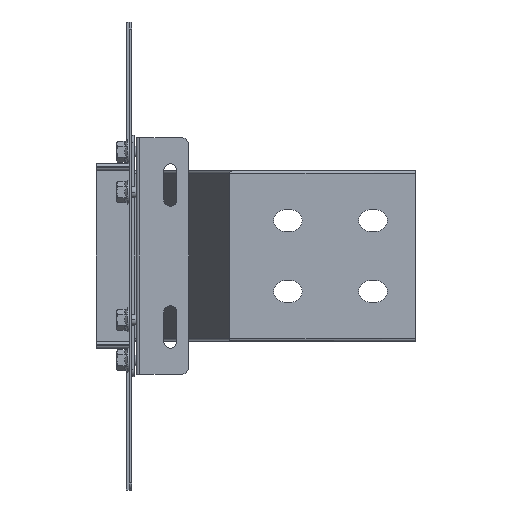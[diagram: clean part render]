
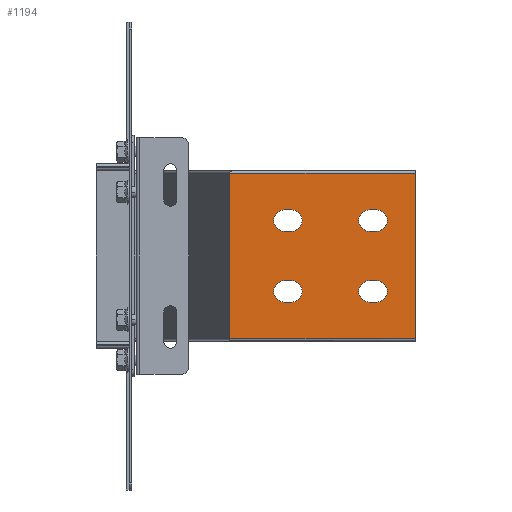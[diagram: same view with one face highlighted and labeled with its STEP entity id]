
A CAD part, front view. The second image highlights one B-rep face of the part: STEP entity #1194.
In plain terms, the highlighted planar face has unit normal (0, -1, 0).
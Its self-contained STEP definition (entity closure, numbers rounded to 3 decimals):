
#1018=AXIS2_PLACEMENT_3D('Circle Axis2P3D',#1016,#1017,$) ;
#1038=AXIS2_PLACEMENT_3D('Plane Axis2P3D',#1035,#1036,#1037) ;
#1076=AXIS2_PLACEMENT_3D('Circle Axis2P3D',#1074,#1075,$) ;
#1094=AXIS2_PLACEMENT_3D('Circle Axis2P3D',#1092,#1093,$) ;
#1110=AXIS2_PLACEMENT_3D('Circle Axis2P3D',#1108,#1109,$) ;
#1128=AXIS2_PLACEMENT_3D('Circle Axis2P3D',#1126,#1127,$) ;
#1144=AXIS2_PLACEMENT_3D('Circle Axis2P3D',#1142,#1143,$) ;
#1171=AXIS2_PLACEMENT_3D('Circle Axis2P3D',#1169,#1170,$) ;
#1185=AXIS2_PLACEMENT_3D('Circle Axis2P3D',#1183,#1184,$) ;
#982=CARTESIAN_POINT('Vertex',(112.5,-151.65,32.5)) ;
#985=CARTESIAN_POINT('Line Origine',(110.,-151.65,32.5)) ;
#989=CARTESIAN_POINT('Vertex',(107.5,-151.65,32.5)) ;
#1016=CARTESIAN_POINT('Axis2P3D Location',(107.5,-151.65,25.)) ;
#1020=CARTESIAN_POINT('Vertex',(107.5,-151.65,17.5)) ;
#1035=CARTESIAN_POINT('Axis2P3D Location',(200.,-151.65,-58.35)) ;
#1040=CARTESIAN_POINT('Line Origine',(134.45,-151.65,-58.35)) ;
#1044=CARTESIAN_POINT('Vertex',(200.,-151.65,-58.35)) ;
#1046=CARTESIAN_POINT('Vertex',(68.9,-151.65,-58.35)) ;
#1049=CARTESIAN_POINT('Line Origine',(200.,-151.65,0.)) ;
#1053=CARTESIAN_POINT('Vertex',(200.,-151.65,58.35)) ;
#1056=CARTESIAN_POINT('Line Origine',(134.45,-151.65,58.35)) ;
#1060=CARTESIAN_POINT('Vertex',(68.9,-151.65,58.35)) ;
#1063=CARTESIAN_POINT('Line Origine',(68.9,-151.65,0.)) ;
#1074=CARTESIAN_POINT('Axis2P3D Location',(112.5,-151.65,25.)) ;
#1078=CARTESIAN_POINT('Vertex',(112.5,-151.65,17.5)) ;
#1081=CARTESIAN_POINT('Line Origine',(110.,-151.65,17.5)) ;
#1092=CARTESIAN_POINT('Axis2P3D Location',(172.5,-151.65,25.)) ;
#1096=CARTESIAN_POINT('Vertex',(172.5,-151.65,17.5)) ;
#1098=CARTESIAN_POINT('Vertex',(172.5,-151.65,32.5)) ;
#1101=CARTESIAN_POINT('Line Origine',(170.,-151.65,17.5)) ;
#1105=CARTESIAN_POINT('Vertex',(167.5,-151.65,17.5)) ;
#1108=CARTESIAN_POINT('Axis2P3D Location',(167.5,-151.65,25.)) ;
#1112=CARTESIAN_POINT('Vertex',(167.5,-151.65,32.5)) ;
#1115=CARTESIAN_POINT('Line Origine',(170.,-151.65,32.5)) ;
#1126=CARTESIAN_POINT('Axis2P3D Location',(107.5,-151.65,-25.)) ;
#1130=CARTESIAN_POINT('Vertex',(107.5,-151.65,-17.5)) ;
#1132=CARTESIAN_POINT('Vertex',(107.5,-151.65,-32.5)) ;
#1135=CARTESIAN_POINT('Line Origine',(110.,-151.65,-17.5)) ;
#1139=CARTESIAN_POINT('Vertex',(112.5,-151.65,-17.5)) ;
#1142=CARTESIAN_POINT('Axis2P3D Location',(112.5,-151.65,-25.)) ;
#1146=CARTESIAN_POINT('Vertex',(112.5,-151.65,-32.5)) ;
#1149=CARTESIAN_POINT('Line Origine',(110.,-151.65,-32.5)) ;
#1160=CARTESIAN_POINT('Line Origine',(170.,-151.65,-17.5)) ;
#1164=CARTESIAN_POINT('Vertex',(172.5,-151.65,-17.5)) ;
#1166=CARTESIAN_POINT('Vertex',(167.5,-151.65,-17.5)) ;
#1169=CARTESIAN_POINT('Axis2P3D Location',(172.5,-151.65,-25.)) ;
#1173=CARTESIAN_POINT('Vertex',(172.5,-151.65,-32.5)) ;
#1176=CARTESIAN_POINT('Line Origine',(170.,-151.65,-32.5)) ;
#1180=CARTESIAN_POINT('Vertex',(167.5,-151.65,-32.5)) ;
#1183=CARTESIAN_POINT('Axis2P3D Location',(167.5,-151.65,-25.)) ;
#986=DIRECTION('Vector Direction',(1.,0.,0.)) ;
#1017=DIRECTION('Axis2P3D Direction',(0.,-1.,0.)) ;
#1036=DIRECTION('Axis2P3D Direction',(0.,-1.,0.)) ;
#1037=DIRECTION('Axis2P3D XDirection',(0.,0.,1.)) ;
#1041=DIRECTION('Vector Direction',(-1.,0.,0.)) ;
#1050=DIRECTION('Vector Direction',(0.,0.,1.)) ;
#1057=DIRECTION('Vector Direction',(-1.,0.,0.)) ;
#1064=DIRECTION('Vector Direction',(0.,0.,1.)) ;
#1075=DIRECTION('Axis2P3D Direction',(0.,-1.,0.)) ;
#1082=DIRECTION('Vector Direction',(-1.,0.,0.)) ;
#1093=DIRECTION('Axis2P3D Direction',(0.,-1.,0.)) ;
#1102=DIRECTION('Vector Direction',(1.,0.,0.)) ;
#1109=DIRECTION('Axis2P3D Direction',(0.,-1.,0.)) ;
#1116=DIRECTION('Vector Direction',(-1.,0.,0.)) ;
#1127=DIRECTION('Axis2P3D Direction',(0.,-1.,0.)) ;
#1136=DIRECTION('Vector Direction',(-1.,0.,0.)) ;
#1143=DIRECTION('Axis2P3D Direction',(0.,-1.,0.)) ;
#1150=DIRECTION('Vector Direction',(1.,0.,0.)) ;
#1161=DIRECTION('Vector Direction',(1.,0.,0.)) ;
#1170=DIRECTION('Axis2P3D Direction',(0.,-1.,0.)) ;
#1177=DIRECTION('Vector Direction',(-1.,0.,0.)) ;
#1184=DIRECTION('Axis2P3D Direction',(0.,-1.,0.)) ;
#987=VECTOR('Line Direction',#986,1.) ;
#1042=VECTOR('Line Direction',#1041,1.) ;
#1051=VECTOR('Line Direction',#1050,1.) ;
#1058=VECTOR('Line Direction',#1057,1.) ;
#1065=VECTOR('Line Direction',#1064,1.) ;
#1083=VECTOR('Line Direction',#1082,1.) ;
#1103=VECTOR('Line Direction',#1102,1.) ;
#1117=VECTOR('Line Direction',#1116,1.) ;
#1137=VECTOR('Line Direction',#1136,1.) ;
#1151=VECTOR('Line Direction',#1150,1.) ;
#1162=VECTOR('Line Direction',#1161,1.) ;
#1178=VECTOR('Line Direction',#1177,1.) ;
#1069=ORIENTED_EDGE('',*,*,#1048,.F.) ;
#1070=ORIENTED_EDGE('',*,*,#1055,.F.) ;
#1071=ORIENTED_EDGE('',*,*,#1062,.T.) ;
#1072=ORIENTED_EDGE('',*,*,#1067,.F.) ;
#1087=ORIENTED_EDGE('',*,*,#1080,.F.) ;
#1088=ORIENTED_EDGE('',*,*,#1085,.F.) ;
#1089=ORIENTED_EDGE('',*,*,#1022,.F.) ;
#1090=ORIENTED_EDGE('',*,*,#991,.F.) ;
#1121=ORIENTED_EDGE('',*,*,#1100,.F.) ;
#1122=ORIENTED_EDGE('',*,*,#1107,.F.) ;
#1123=ORIENTED_EDGE('',*,*,#1114,.F.) ;
#1124=ORIENTED_EDGE('',*,*,#1119,.F.) ;
#1155=ORIENTED_EDGE('',*,*,#1134,.F.) ;
#1156=ORIENTED_EDGE('',*,*,#1141,.F.) ;
#1157=ORIENTED_EDGE('',*,*,#1148,.F.) ;
#1158=ORIENTED_EDGE('',*,*,#1153,.F.) ;
#1189=ORIENTED_EDGE('',*,*,#1168,.F.) ;
#1190=ORIENTED_EDGE('',*,*,#1175,.F.) ;
#1191=ORIENTED_EDGE('',*,*,#1182,.F.) ;
#1192=ORIENTED_EDGE('',*,*,#1187,.F.) ;
#1091=FACE_BOUND('',#1086,.T.) ;
#1125=FACE_BOUND('',#1120,.T.) ;
#1159=FACE_BOUND('',#1154,.T.) ;
#1193=FACE_BOUND('',#1188,.T.) ;
#1194=ADVANCED_FACE('N',(#1073,#1091,#1125,#1159,#1193),#1039,.T.) ;
#1019=CIRCLE('generated circle',#1018,7.5) ;
#1077=CIRCLE('generated circle',#1076,7.5) ;
#1095=CIRCLE('generated circle',#1094,7.5) ;
#1111=CIRCLE('generated circle',#1110,7.5) ;
#1129=CIRCLE('generated circle',#1128,7.5) ;
#1145=CIRCLE('generated circle',#1144,7.5) ;
#1172=CIRCLE('generated circle',#1171,7.5) ;
#1186=CIRCLE('generated circle',#1185,7.5) ;
#991=EDGE_CURVE('',#983,#990,#988,.F.) ;
#1022=EDGE_CURVE('',#990,#1021,#1019,.T.) ;
#1048=EDGE_CURVE('',#1045,#1047,#1043,.T.) ;
#1055=EDGE_CURVE('',#1054,#1045,#1052,.F.) ;
#1062=EDGE_CURVE('',#1054,#1061,#1059,.T.) ;
#1067=EDGE_CURVE('',#1047,#1061,#1066,.T.) ;
#1080=EDGE_CURVE('',#1079,#983,#1077,.T.) ;
#1085=EDGE_CURVE('',#1021,#1079,#1084,.F.) ;
#1100=EDGE_CURVE('',#1097,#1099,#1095,.T.) ;
#1107=EDGE_CURVE('',#1106,#1097,#1104,.T.) ;
#1114=EDGE_CURVE('',#1113,#1106,#1111,.T.) ;
#1119=EDGE_CURVE('',#1099,#1113,#1118,.T.) ;
#1134=EDGE_CURVE('',#1131,#1133,#1129,.T.) ;
#1141=EDGE_CURVE('',#1140,#1131,#1138,.T.) ;
#1148=EDGE_CURVE('',#1147,#1140,#1145,.T.) ;
#1153=EDGE_CURVE('',#1133,#1147,#1152,.T.) ;
#1168=EDGE_CURVE('',#1165,#1167,#1163,.F.) ;
#1175=EDGE_CURVE('',#1174,#1165,#1172,.T.) ;
#1182=EDGE_CURVE('',#1181,#1174,#1179,.F.) ;
#1187=EDGE_CURVE('',#1167,#1181,#1186,.T.) ;
#1068=EDGE_LOOP('',(#1069,#1070,#1071,#1072)) ;
#1086=EDGE_LOOP('',(#1087,#1088,#1089,#1090)) ;
#1120=EDGE_LOOP('',(#1121,#1122,#1123,#1124)) ;
#1154=EDGE_LOOP('',(#1155,#1156,#1157,#1158)) ;
#1188=EDGE_LOOP('',(#1189,#1190,#1191,#1192)) ;
#1073=FACE_OUTER_BOUND('',#1068,.T.) ;
#988=LINE('Line',#985,#987) ;
#1043=LINE('Line',#1040,#1042) ;
#1052=LINE('Line',#1049,#1051) ;
#1059=LINE('Line',#1056,#1058) ;
#1066=LINE('Line',#1063,#1065) ;
#1084=LINE('Line',#1081,#1083) ;
#1104=LINE('Line',#1101,#1103) ;
#1118=LINE('Line',#1115,#1117) ;
#1138=LINE('Line',#1135,#1137) ;
#1152=LINE('Line',#1149,#1151) ;
#1163=LINE('Line',#1160,#1162) ;
#1179=LINE('Line',#1176,#1178) ;
#1039=PLANE('',#1038) ;
#983=VERTEX_POINT('',#982) ;
#990=VERTEX_POINT('',#989) ;
#1021=VERTEX_POINT('',#1020) ;
#1045=VERTEX_POINT('',#1044) ;
#1047=VERTEX_POINT('',#1046) ;
#1054=VERTEX_POINT('',#1053) ;
#1061=VERTEX_POINT('',#1060) ;
#1079=VERTEX_POINT('',#1078) ;
#1097=VERTEX_POINT('',#1096) ;
#1099=VERTEX_POINT('',#1098) ;
#1106=VERTEX_POINT('',#1105) ;
#1113=VERTEX_POINT('',#1112) ;
#1131=VERTEX_POINT('',#1130) ;
#1133=VERTEX_POINT('',#1132) ;
#1140=VERTEX_POINT('',#1139) ;
#1147=VERTEX_POINT('',#1146) ;
#1165=VERTEX_POINT('',#1164) ;
#1167=VERTEX_POINT('',#1166) ;
#1174=VERTEX_POINT('',#1173) ;
#1181=VERTEX_POINT('',#1180) ;
